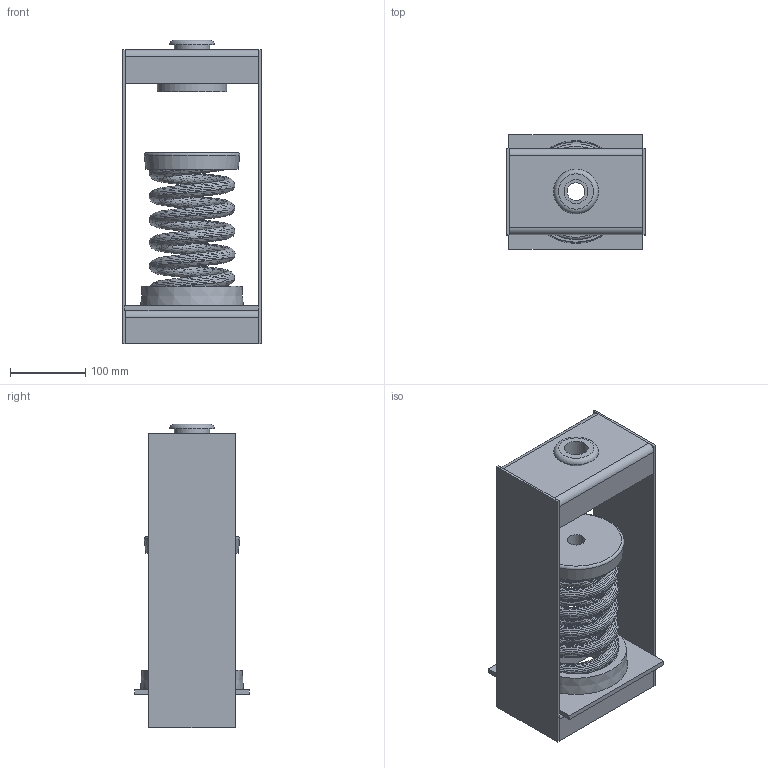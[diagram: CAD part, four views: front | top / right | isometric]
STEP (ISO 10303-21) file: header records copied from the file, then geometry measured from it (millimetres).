
FILE_DESCRIPTION(/* description */ (''),/* implementation_level */ '2;1');
FILE_NAME(/* name */ 'C:\001_Work\Designs\HANGER BOXES\30N 100 SERIES\30N-108-109, 130-132, 150-153\30N-109.stp',/* time_stamp */ '2015-05-26T10:40:47-04:00',/* author */ ('rramoutar'),/* organization */ ('Mason Industries Inc.'),/* preprocessor_version */ 'ST-DEVELOPER v15.2',/* originating_system */ 'Autodesk Inventor 2014',/* authorisation */ '');
FILE_SCHEMA (('AUTOMOTIVE_DESIGN { 1 0 10303 214 3 1 1 }'));
Length unit declared in the file: inch
Products named in the file (1): 30N-109
Bounding box: 184.15 x 152.4 x 403.23 mm (x, y, z)
Volume: 1404764.8 mm3; surface area: 740385.9 mm2
Topology: 12 solids, 13 shells, 168 faces, 363 edges, 231 vertices
Faces by surface type: plane 106, cylinder 34, bspline 22, cone 4, torus 2
Full cylindrical faces by diameter (mm): 23.812 x2, 31.75 x2, 38.1 x1, 41.275 x2, 46.831 x1, 82.55 x3, 87.312 x1, 88.9 x2, 92.075 x1, 96.837 x1, 96.838 x1, 98.425 x3, 112.712 x1, 116.681 x1, 120.65 x2
Entity records: 14776 total; most frequent: CARTESIAN_POINT 11124, ORIENTED_EDGE 660, DIRECTION 654, EDGE_CURVE 330, AXIS2_PLACEMENT_3D 241, EDGE_LOOP 230, VERTEX_POINT 228, LINE 172
